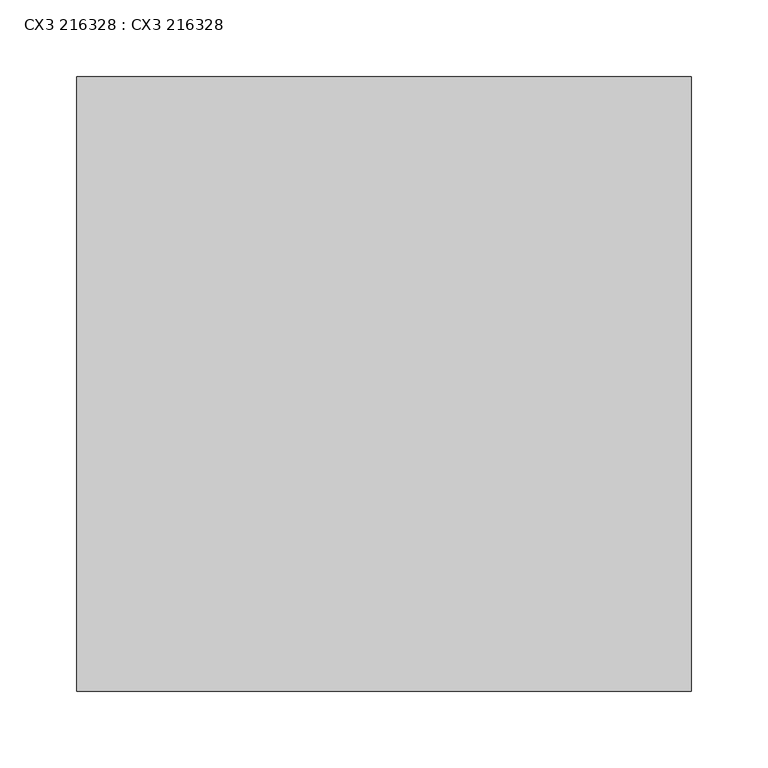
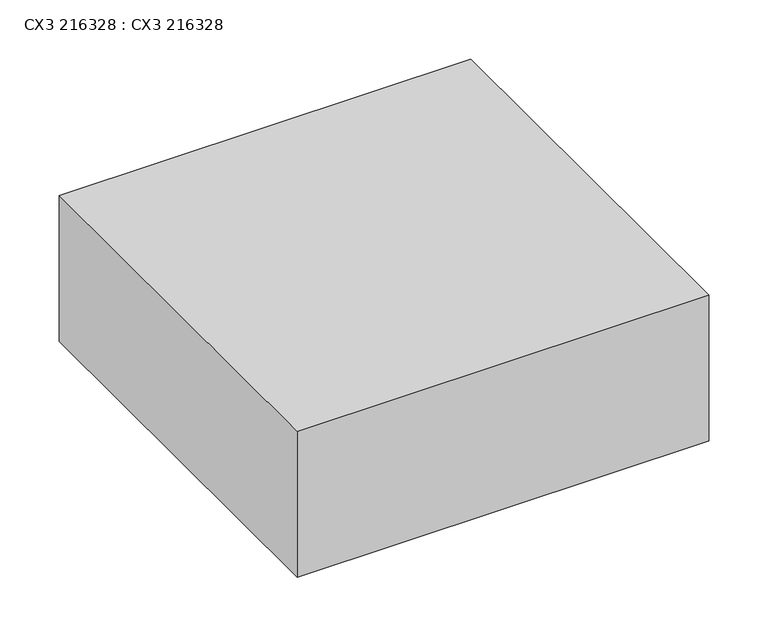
"""IFC4 building model written with IfcOpenShell, lengths in millimetres: proxy geometry, CX3 216328 : CX3 216328."""

import ifcopenshell
import ifcopenshell.guid

model = None  # the IFC model being written
_history = None  # IfcOwnerHistory: only IFC2X3 demands one
_inside = {}  # id of a spatial element -> (the spatial element, [elements in it])
_under = {}  # id of a project, library or spatial element -> (it, [spatial elements below it])
_declared = {}  # id of a project -> (the project, [libraries it declares])
_typed = {}  # id of a type object -> (the type object, [elements of that type])
_made_of = {}  # id of a material, layer set ... -> (it, [elements and type objects made of it])


def new_model(schema):
    """Start an empty IFC model of exactly this schema.

    Asked for "IFC4X3", IfcOpenShell would pick the latest addendum, in which some entities
    have other attributes; the version numbers below select the first issue.
    IFC2X3 requires an IfcOwnerHistory on every rooted entity: one is made here for all.
    """
    global model, _history
    if schema == "IFC4X3":
        model = ifcopenshell.file(schema_version=(4, 3, 0, 0))
    else:
        model = ifcopenshell.file(schema=schema)
    _inside.clear()
    _under.clear()
    _declared.clear()
    _typed.clear()
    _made_of.clear()
    _history = None
    if model.schema == "IFC2X3":
        org = make("IfcOrganization", Name="unknown")
        user = make(
            "IfcPersonAndOrganization",
            ThePerson=make("IfcPerson", FamilyName="unknown"),
            TheOrganization=org,
        )
        app = make(
            "IfcApplication",
            ApplicationDeveloper=org,
            Version="unknown",
            ApplicationFullName="unknown",
            ApplicationIdentifier="unknown",
        )
        _history = make(
            "IfcOwnerHistory",
            OwningUser=user,
            OwningApplication=app,
            ChangeAction="ADDED",
            CreationDate=0,
        )
    return model


def make(cls, **values):
    """One entity of the class cls with the attributes given. An attribute that is None is left unset."""
    return model.create_entity(
        cls, **{name: value for name, value in values.items() if value is not None}
    )


def rooted(cls, **values):
    """An entity with a GlobalId (a new one), such as an element, a storey or a relation."""
    return make(cls, GlobalId=ifcopenshell.guid.new(), OwnerHistory=_history, **values)


def si_unit(unit_type, name, prefix=None):
    """IfcSIUnit, for example si_unit("LENGTHUNIT", "METRE", prefix="MILLI")."""
    return make("IfcSIUnit", UnitType=unit_type, Prefix=prefix, Name=name)


def assignment(units):
    """IfcUnitAssignment: the units of a project."""
    return None if units is None else make("IfcUnitAssignment", Units=units)


def point(xyz):
    """IfcCartesianPoint."""
    return None if xyz is None else make("IfcCartesianPoint", Coordinates=xyz)


def direction(xyz):
    """IfcDirection."""
    return None if xyz is None else make("IfcDirection", DirectionRatios=xyz)


def frame(location, z_axis=None, x_axis=None):
    """IfcAxis2Placement3D, a coordinate frame: its origin and axes. An axis left out is left unset."""
    return make(
        "IfcAxis2Placement3D",
        Location=point(location),
        Axis=direction(z_axis),
        RefDirection=direction(x_axis),
    )


def origin():
    """The frame at (0, 0, 0) with its axes left unset."""
    return frame((0.0, 0.0, 0.0))


def place(relative_to, where):
    """IfcLocalPlacement: puts the frame where relative to a parent placement (None: the world)."""
    return make(
        "IfcLocalPlacement", PlacementRelTo=relative_to, RelativePlacement=where
    )


def context(
    kind, dimensions, precision=None, world=None, true_north=None, identifier=None
):
    """IfcGeometricRepresentationContext, for example the 3D "Model" context."""
    return make(
        "IfcGeometricRepresentationContext",
        ContextIdentifier=identifier,
        ContextType=kind,
        CoordinateSpaceDimension=dimensions,
        Precision=precision,
        WorldCoordinateSystem=world,
        TrueNorth=true_north,
    )


def project(units=None, contexts=None):
    """IfcProject with its units and contexts."""
    return rooted(
        "IfcProject",
        Name="project",
        RepresentationContexts=contexts,
        UnitsInContext=assignment(units),
    )


def spatial(cls, under=None, at=None, **own):
    """A site, building, storey or space (cls), placed at a placement, below another one or the project."""
    s = rooted(cls, ObjectPlacement=at, **own)
    if under is not None:
        _under.setdefault(under.id(), (under, []))[1].append(s)
    return s


def polyline(points):
    """IfcPolyline through the points."""
    return make("IfcPolyline", Points=[point(p) for p in points])


def outline(outer, holes=None, kind="AREA"):
    """IfcArbitraryClosedProfileDef: a profile drawn as a closed curve; with holes, ...WithVoids."""
    if holes is None:
        return make("IfcArbitraryClosedProfileDef", ProfileType=kind, OuterCurve=outer)
    return make(
        "IfcArbitraryProfileDefWithVoids",
        ProfileType=kind,
        OuterCurve=outer,
        InnerCurves=holes,
    )


def extrude(swept, where, along, depth):
    """IfcExtrudedAreaSolid: the profile swept, set in the frame where, extruded along a direction by depth."""
    return make(
        "IfcExtrudedAreaSolid",
        SweptArea=swept,
        Position=where,
        ExtrudedDirection=direction(along),
        Depth=depth,
    )


def shape(context_of_items, identifier, shape_type, items):
    """IfcShapeRepresentation: the items that make up one representation, for example the "Body"."""
    return make(
        "IfcShapeRepresentation",
        ContextOfItems=context_of_items,
        RepresentationIdentifier=identifier,
        RepresentationType=shape_type,
        Items=items,
    )


def source(mapping_origin, context_of_items, identifier, shape_type, items):
    """IfcRepresentationMap: a shape defined once, which mapped items show again and again."""
    return make(
        "IfcRepresentationMap",
        MappingOrigin=mapping_origin,
        MappedRepresentation=shape(context_of_items, identifier, shape_type, items),
    )


def transform(
    local_origin,
    x_axis=None,
    y_axis=None,
    z_axis=None,
    scale=None,
    scale2=None,
    scale3=None,
    uniform=True,
):
    """IfcCartesianTransformationOperator3D, or its non-uniform kind. x_axis, y_axis, z_axis: its Axis1, 2, 3."""
    if uniform:
        return make(
            "IfcCartesianTransformationOperator3D",
            Axis1=direction(x_axis),
            Axis2=direction(y_axis),
            LocalOrigin=point(local_origin),
            Scale=scale,
            Axis3=direction(z_axis),
        )
    return make(
        "IfcCartesianTransformationOperator3DnonUniform",
        Axis1=direction(x_axis),
        Axis2=direction(y_axis),
        LocalOrigin=point(local_origin),
        Scale=scale,
        Axis3=direction(z_axis),
        Scale2=scale2,
        Scale3=scale3,
    )


def mapped(mapping_source, mapping_target):
    """IfcMappedItem: shows the shape of a source again, moved by a transform."""
    return make(
        "IfcMappedItem", MappingSource=mapping_source, MappingTarget=mapping_target
    )


def made_of(thing, what):
    """Note that an element or type object is made of a material, layer set ...; save() writes the relation."""
    if what is not None:
        _made_of.setdefault(what.id(), (what, []))[1].append(thing)
    return thing


def element(
    cls,
    number,
    at=None,
    inside=None,
    cuts=None,
    type_object=None,
    material=None,
    context=None,
    identifier="Body",
    shape_type=None,
    held_by="IfcProductDefinitionShape",
    body=None,
    shapes=None,
    **own,
):
    """One element of the class cls, such as IfcWall. Its Tag is "e" and its number.

    at: its placement. inside: the storey or other place that contains it. cuts: it is an
    opening in that element (IfcRelVoidsElement). A single representation is given by context,
    identifier, shape_type and body (its items); several are given by shapes. held_by: the class
    of the entity that holds the representations. save() writes the other relations.
    """
    e = rooted(cls, Tag="e%d" % number, ObjectPlacement=at, **own)
    if body is not None:
        shapes = [shape(context, identifier, shape_type, body)]
    if shapes is not None:
        e.Representation = make(held_by, Representations=shapes)
    if inside is not None:
        _inside.setdefault(inside.id(), (inside, []))[1].append(e)
    if cuts is not None:
        rooted(
            "IfcRelVoidsElement", RelatingBuildingElement=cuts, RelatedOpeningElement=e
        )
    if type_object is not None:
        _typed.setdefault(type_object.id(), (type_object, []))[1].append(e)
    return made_of(e, material)


def aggregate(whole, parts):
    """IfcRelAggregates: a whole, such as a stair, and the parts it consists of."""
    return rooted("IfcRelAggregates", RelatingObject=whole, RelatedObjects=parts)


def save(model, path):
    """Write the relations noted so far, then the file.

    IfcRelAggregates (storeys below a building ...), IfcRelContainedInSpatialStructure (elements
    in a storey), IfcRelDefinesByType, IfcRelAssociatesMaterial and IfcRelDeclares: one each for
    every whole, place, type object, material and project.
    """
    for whole, parts in _under.values():
        aggregate(whole, parts)
    for where, things in _inside.values():
        rooted(
            "IfcRelContainedInSpatialStructure",
            RelatedElements=things,
            RelatingStructure=where,
        )
    for kind, things in _typed.values():
        rooted("IfcRelDefinesByType", RelatedObjects=things, RelatingType=kind)
    for what, things in _made_of.values():
        rooted("IfcRelAssociatesMaterial", RelatedObjects=things, RelatingMaterial=what)
    for by, libraries in _declared.values():
        rooted("IfcRelDeclares", RelatingContext=by, RelatedDefinitions=libraries)
    model.write(path)


def cx3_216328_cx3_216328_5394996d(model_context):
    return source(origin(), model_context, "Body", "SweptSolid", [
        extrude(outline(polyline([(20616.2, 16630.6), (21016.2, 16630.6), (21016.2, 16230.6), (20616.2, 16230.6), (20616.2, 16630.6)])), frame((0.0, 0.0, 2880.0), z_axis=(0.0, 0.0, 1.0), x_axis=(1.0, 0.0, 0.0)), (0.0, 0.0, 1.0), 150.0),
    ])


if __name__ == "__main__":
    model = new_model("IFC4")
    model_context = context("Model", 3, world=origin())
    ifc_project = project(units=[si_unit("LENGTHUNIT", "METRE", prefix="MILLI")], contexts=[model_context])
    site = spatial("IfcSite", under=ifc_project)
    building = spatial("IfcBuilding", under=site)
    placement = place(None, origin())
    cx3_216328_cx3_216328_shape = cx3_216328_cx3_216328_5394996d(model_context)
    element("IfcBuildingElementProxy", 1, Name="CX3 216328 : CX3 216328", ObjectType="CX3 216328 : CX3 216328", at=placement, inside=building, context=model_context, shape_type="MappedRepresentation", body=[
        mapped(cx3_216328_cx3_216328_shape, transform((0.0, 0.0, 0.0), x_axis=(1.0, 0.0, 0.0), y_axis=(0.0, 1.0, 0.0), z_axis=(0.0, 0.0, 1.0))),
    ])
    save(model, "model.ifc")
